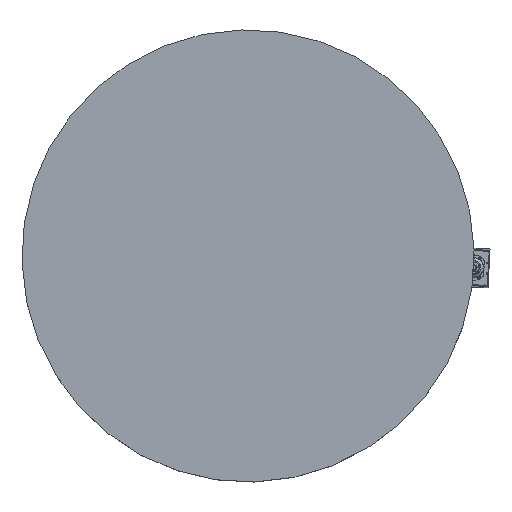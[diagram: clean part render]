
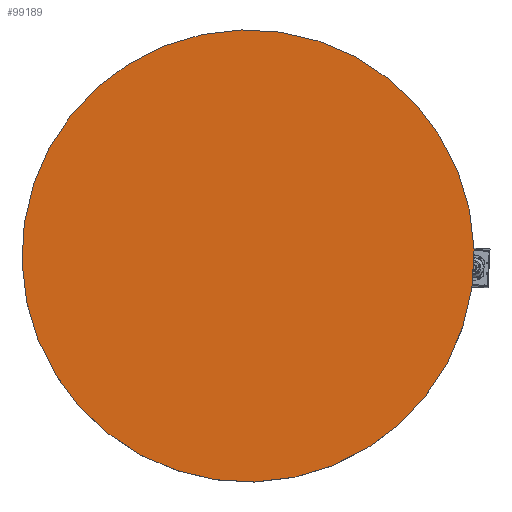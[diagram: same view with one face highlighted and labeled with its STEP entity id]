
A CAD part, top view. The second image highlights one B-rep face of the part: STEP entity #99189.
In plain terms, the highlighted planar face has unit normal (0, 0, 1).
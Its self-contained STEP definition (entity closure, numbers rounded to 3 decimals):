
#6245 = AXIS2_PLACEMENT_3D ( 'NONE', #173858, #210154, #231164 ) ;
#16042 = ORIENTED_EDGE ( 'NONE', *, *, #122893, .T. ) ;
#17164 = DIRECTION ( 'NONE',  ( 1., 0., 0. ) ) ;
#34162 = DIRECTION ( 'NONE',  ( 0., 0., 1. ) ) ;
#46645 = EDGE_CURVE ( 'NONE', #223851, #104487, #200351, .T. ) ;
#92295 = CARTESIAN_POINT ( 'NONE',  ( 650., 0., 150. ) ) ;
#99189 = ADVANCED_FACE ( 'NONE', ( #233803 ), #176488, .T. ) ;
#104487 = VERTEX_POINT ( 'NONE', #92295 ) ;
#121602 = CARTESIAN_POINT ( 'NONE',  ( 0., 0., 150. ) ) ;
#122893 = EDGE_CURVE ( 'NONE', #104487, #223851, #143837, .T. ) ;
#140972 = DIRECTION ( 'NONE',  ( 0., 0., 1. ) ) ;
#143837 = CIRCLE ( 'NONE', #161841, 650. ) ;
#160293 = DIRECTION ( 'NONE',  ( 1., 0., 0. ) ) ;
#161841 = AXIS2_PLACEMENT_3D ( 'NONE', #181647, #34162, #17164 ) ;
#171209 = ORIENTED_EDGE ( 'NONE', *, *, #46645, .T. ) ;
#173858 = CARTESIAN_POINT ( 'NONE',  ( 0., 0., 150. ) ) ;
#176488 = PLANE ( 'NONE',  #196188 ) ;
#177752 = CARTESIAN_POINT ( 'NONE',  ( -650., 0., 150. ) ) ;
#181647 = CARTESIAN_POINT ( 'NONE',  ( 0., 0., 150. ) ) ;
#196188 = AXIS2_PLACEMENT_3D ( 'NONE', #121602, #140972, #160293 ) ;
#200351 = CIRCLE ( 'NONE', #6245, 650. ) ;
#210154 = DIRECTION ( 'NONE',  ( 0., 0., 1. ) ) ;
#223851 = VERTEX_POINT ( 'NONE', #177752 ) ;
#226128 = EDGE_LOOP ( 'NONE', ( #171209, #16042 ) ) ;
#231164 = DIRECTION ( 'NONE',  ( 1., 0., 0. ) ) ;
#233803 = FACE_OUTER_BOUND ( 'NONE', #226128, .T. ) ;
